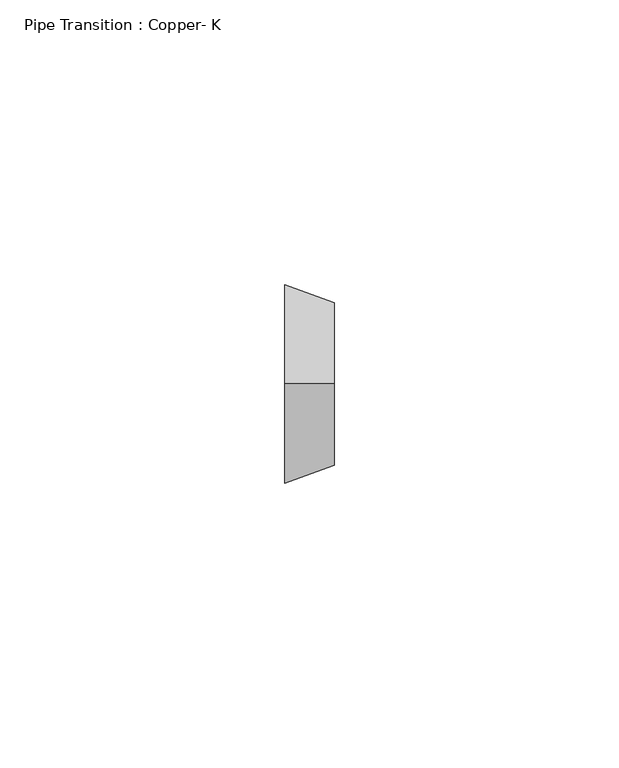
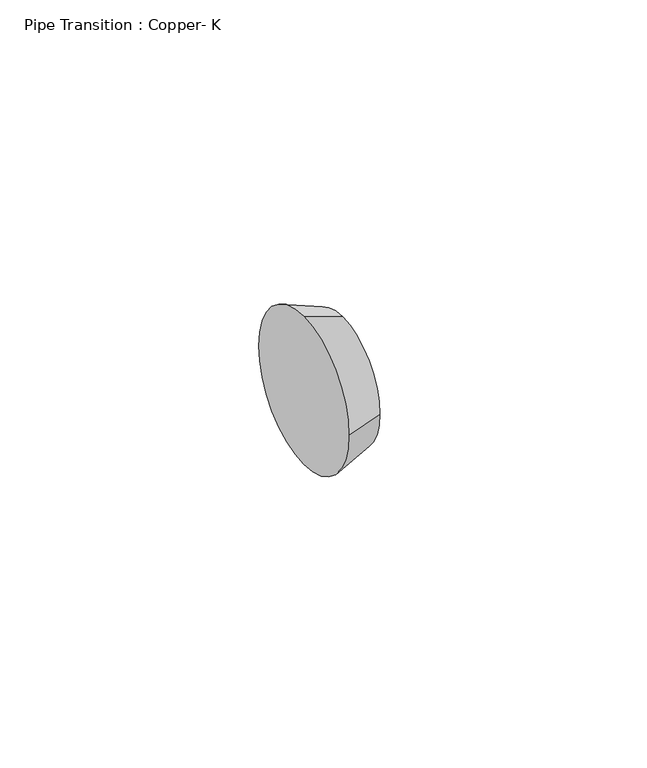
"""IFC4 building model written with IfcOpenShell, lengths in millimetres: pipe fitting geometry, Pipe Transition : Copper- K."""

from ifc_helpers import new_model, si_unit, frame, origin, place, context, project, spatial, polyline, circle_curve, source, transform, mapped, element, save
from ifc_brep_helpers import plane_surface, revolved_surface, advanced_brep


def pipe_transition_copper_k_3e141881(model_context):
    return source(origin(), model_context, "Body", "AdvancedBrep", [
        advanced_brep(
        [(8.73125, 0.0, 14.2875), (8.73125, -14.2875, 0.0), (8.73125, 0.0, -14.2875), (8.73125, 14.2875, 0.0), (0.0, 0.0, 17.4625), (0.0, 17.4625, 0.0), (0.0, 0.0, -17.4625), (0.0, -17.4625, 0.0)],
        [
            (0, 1, circle_curve(frame((8.73125, 0.0, 0.0), z_axis=(1.0, 0.0, 0.0), x_axis=(0.0, 0.0, 1.0)), 14.2875)),
            (1, 2, circle_curve(frame((8.73125, 0.0, 0.0), z_axis=(1.0, 0.0, 0.0), x_axis=(0.0, -1.0, 0.0)), 14.2875)),
            (2, 3, circle_curve(frame((8.73125, 0.0, 0.0), z_axis=(1.0, 0.0, 0.0), x_axis=(0.0, 0.0, -1.0)), 14.2875)),
            (3, 0, circle_curve(frame((8.73125, 0.0, 0.0), z_axis=(1.0, 0.0, 0.0), x_axis=(0.0, 1.0, 0.0)), 14.2875)),
            (4, 5, circle_curve(frame((0.0, 0.0, 0.0), z_axis=(-1.0, 0.0, 0.0), x_axis=(0.0, 1.0, 0.0)), 17.4625)),
            (5, 6, circle_curve(frame((0.0, 0.0, 0.0), z_axis=(-1.0, 0.0, 0.0), x_axis=(0.0, 0.0, -1.0)), 17.4625)),
            (6, 7, circle_curve(frame((0.0, 0.0, 0.0), z_axis=(-1.0, 0.0, 0.0), x_axis=(0.0, -1.0, 0.0)), 17.4625)),
            (7, 4, circle_curve(frame((0.0, 0.0, 0.0), z_axis=(-1.0, 0.0, 0.0), x_axis=(0.0, 0.0, 1.0)), 17.4625)),
            (7, 1),
            (0, 4),
            (6, 2),
            (5, 3),
        ],
        [
            plane_surface(frame((8.73125, 0.0, 0.0), z_axis=(1.0, 0.0, 0.0), x_axis=(0.0, -1.0, 0.0))),
            plane_surface(frame((0.0, 0.0, 0.0), z_axis=(-1.0, 0.0, 0.0), x_axis=(0.0, -1.0, 0.0))),
            revolved_surface(polyline([(8.731249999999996, 0.0, 14.2875), (0.0, 0.0, 17.4625)]), (48.021875, 0.0, 0.0), (-1.0, 0.0, 0.0)),
            revolved_surface(polyline([(8.731249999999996, -14.2875, 0.0), (0.0, -17.4625, 0.0)]), (48.021875, 0.0, 0.0), (-1.0, 0.0, 0.0)),
            revolved_surface(polyline([(8.731249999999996, 0.0, -14.2875), (0.0, 0.0, -17.4625)]), (48.021875, 0.0, 0.0), (-1.0, 0.0, 0.0)),
            revolved_surface(polyline([(8.731249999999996, 14.2875, 0.0), (0.0, 17.4625, 0.0)]), (48.021875, 0.0, 0.0), (-1.0, 0.0, 0.0)),
        ],
        [
            (0, [[1, 2, 3, 4]]),
            (1, [[5, 6, 7, 8]]),
            (2, [[-8, 9, -1, 10]]),
            (3, [[-7, 11, -2, -9]]),
            (4, [[-6, 12, -3, -11]]),
            (5, [[-5, -10, -4, -12]]),
        ],
    ),
        advanced_brep(
        [(8.73125, 0.0, 14.2875), (8.73125, -14.2875, 0.0), (8.73125, 0.0, -14.2875), (8.73125, 14.2875, 0.0), (0.0, 0.0, 17.4625), (0.0, 17.4625, 0.0), (0.0, 0.0, -17.4625), (0.0, -17.4625, 0.0)],
        [
            (0, 1, circle_curve(frame((8.73125, 0.0, 0.0), z_axis=(1.0, 0.0, 0.0), x_axis=(0.0, 0.0, 1.0)), 14.2875)),
            (1, 2, circle_curve(frame((8.73125, 0.0, 0.0), z_axis=(1.0, 0.0, 0.0), x_axis=(0.0, -1.0, 0.0)), 14.2875)),
            (2, 3, circle_curve(frame((8.73125, 0.0, 0.0), z_axis=(1.0, 0.0, -1.4977782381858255e-12), x_axis=(-1.4976538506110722e-12, 0.0, -1.0)), 14.2875)),
            (3, 0, circle_curve(frame((8.73125, 0.0, 0.0), z_axis=(1.0, 0.0, 0.0), x_axis=(0.0, 1.0, 0.0)), 14.2875)),
            (4, 5, circle_curve(frame((0.0, 0.0, 0.0), z_axis=(-1.0, 0.0, 0.0), x_axis=(0.0, 1.0, 0.0)), 17.4625)),
            (5, 6, circle_curve(frame((0.0, 0.0, 0.0), z_axis=(-1.0, 0.0, 1.4977782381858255e-12), x_axis=(-1.4976538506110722e-12, 0.0, -1.0)), 17.4625)),
            (6, 7, circle_curve(frame((0.0, 0.0, 0.0), z_axis=(-1.0, 0.0, 0.0), x_axis=(0.0, -1.0, 0.0)), 17.4625)),
            (7, 4, circle_curve(frame((0.0, 0.0, 0.0), z_axis=(-1.0, 0.0, 0.0), x_axis=(0.0, 0.0, 1.0)), 17.4625)),
            (7, 1),
            (0, 4),
            (6, 2),
            (5, 3),
        ],
        [
            plane_surface(frame((8.73125, 0.0, 0.0), z_axis=(1.0, 0.0, 0.0), x_axis=(0.0, -1.0, 0.0))),
            plane_surface(frame((0.0, 0.0, 0.0), z_axis=(-1.0, 0.0, 0.0), x_axis=(0.0, -1.0, 0.0))),
            revolved_surface(polyline([(8.731249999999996, 0.0, 14.2875), (0.0, 0.0, 17.4625)]), (48.021875, 0.0, 0.0), (-1.0, 0.0, 0.0)),
            revolved_surface(polyline([(8.731249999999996, -14.2875, 0.0), (0.0, -17.4625, 0.0)]), (48.021875, 0.0, 0.0), (-1.0, 0.0, 0.0)),
            revolved_surface(polyline([(8.731249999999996, 0.0, -14.2875), (-2.6155078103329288e-11, 0.0, -17.46250000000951)]), (48.021875, 0.0, 0.0), (-1.0, 0.0, 1.4977782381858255e-12)),
            revolved_surface(polyline([(8.731249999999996, 14.2875, 0.0), (0.0, 17.4625, 0.0)]), (48.021875, 0.0, 0.0), (-1.0, 0.0, 0.0)),
        ],
        [
            (0, [[1, 2, 3, 4]]),
            (1, [[5, 6, 7, 8]]),
            (2, [[-8, 9, -1, 10]]),
            (3, [[-7, 11, -2, -9]]),
            (4, [[-6, 12, -3, -11]]),
            (5, [[-5, -10, -4, -12]]),
        ],
    ),
    ])


if __name__ == "__main__":
    model = new_model("IFC4")
    model_context = context("Model", 3, world=origin())
    ifc_project = project(units=[si_unit("LENGTHUNIT", "METRE", prefix="MILLI")], contexts=[model_context])
    site = spatial("IfcSite", under=ifc_project)
    building = spatial("IfcBuilding", under=site)
    placement = place(None, origin())
    pipe_transition_copper_k_shape = pipe_transition_copper_k_3e141881(model_context)
    element("IfcPipeFitting", 1, ObjectType="Pipe Transition : Copper- K", at=placement, inside=building, context=model_context, shape_type="MappedRepresentation", body=[
        mapped(pipe_transition_copper_k_shape, transform((0.0, 0.0, 0.0), x_axis=(1.0, 0.0, 0.0), y_axis=(0.0, 1.0, 0.0), z_axis=(0.0, 0.0, 1.0))),
    ])
    save(model, "model.ifc")
